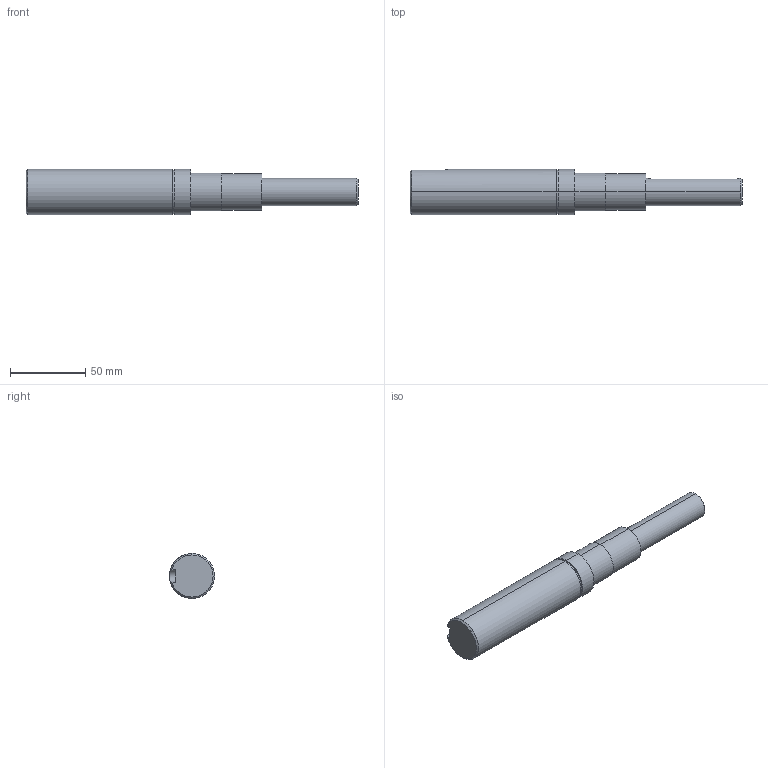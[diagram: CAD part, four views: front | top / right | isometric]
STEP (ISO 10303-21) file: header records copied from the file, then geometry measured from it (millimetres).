
FILE_DESCRIPTION (( 'STEP AP203' ), '1' );
FILE_NAME ('084.814.002-1.STEP', '2013-01-29T13:32:55', ( 'Alusic' ), ( 'Alusic' ), 'SwSTEP 2.0', 'SolidWorks 2011', '' );
FILE_SCHEMA (( 'CONFIG_CONTROL_DESIGN' ));
Length unit declared in the file: millimetre
Products named in the file (1): 084.814.002-1
Bounding box: 220.5 x 30 x 30 mm (x, y, z)
Volume: 113250 mm3; surface area: 19849.2 mm2
Topology: 1 solids, 1 shells, 37 faces, 81 edges, 51 vertices
Faces by surface type: cylinder 17, plane 13, cone 7
Entity records: 1176 total; most frequent: CARTESIAN_POINT 267, DIRECTION 187, ORIENTED_EDGE 158, EDGE_CURVE 79, AXIS2_PLACEMENT_3D 75, VERTEX_POINT 51, EDGE_LOOP 44, ADVANCED_FACE 37
